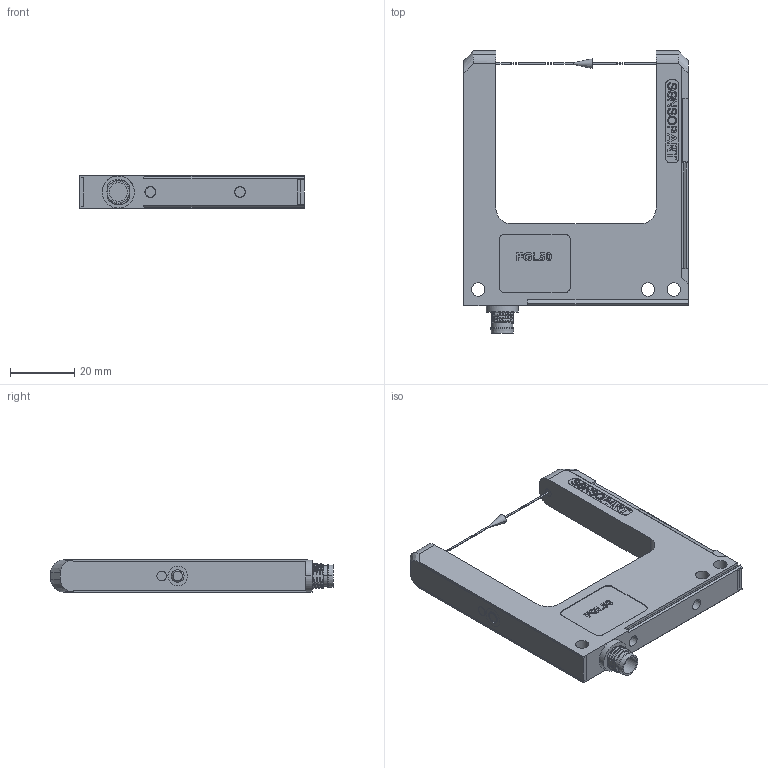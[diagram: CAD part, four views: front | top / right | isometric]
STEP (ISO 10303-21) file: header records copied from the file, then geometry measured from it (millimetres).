
FILE_DESCRIPTION((''),'2;1');
FILE_NAME('15300266_FGL50.stp','2015-11-19T11:06:14',(''),(''),'Mechanical Desktop 2009','Mechanical Desktop 2009',', , ');
FILE_SCHEMA(('CONFIG_CONTROL_DESIGN'));
Length unit declared in the file: millimetre
Products named in the file (10): DRAWING4; FGL_50ER_AUS 80ER ERSTELLT; ~DECKEL_EMPFAENGER_VERSION4_50ER; ~~~~TEIL1; ~WEICHTEIL; ~DECKEL_SENDER_SCHWALBENSCHWANZ_VERSION4_50ER; ~~~~~TEIL1; ~GEHAEUSE FGL_VERSION4_80ER_03; ~~~TEIL1; OPTISCHE ACHSE
Assembly tree (9 placements, depth 4):
  DRAWING4
    FGL_50ER_AUS 80ER ERSTELLT
      ~DECKEL_EMPFAENGER_VERSION4_50ER
        ~~~~TEIL1
        ~WEICHTEIL
      ~DECKEL_SENDER_SCHWALBENSCHWANZ_VERSION4_50ER
        ~~~~~TEIL1
      ~GEHAEUSE FGL_VERSION4_80ER_03
        ~~~TEIL1
      OPTISCHE ACHSE
Bounding box: 70 x 88.1 x 10 mm (x, y, z)
Volume: 26884.1 mm3; surface area: 14650.9 mm2
Topology: 14 solids, 14 shells, 777 faces, 2084 edges, 1382 vertices
Faces by surface type: bspline 330, plane 315, cylinder 118, cone 14
Entity records: 45373 total; most frequent: CARTESIAN_POINT 27796, ORIENTED_EDGE 4168, DIRECTION 2559, EDGE_CURVE 2084, VERTEX_POINT 1382, VECTOR 1143, LINE 1143, EDGE_LOOP 836
